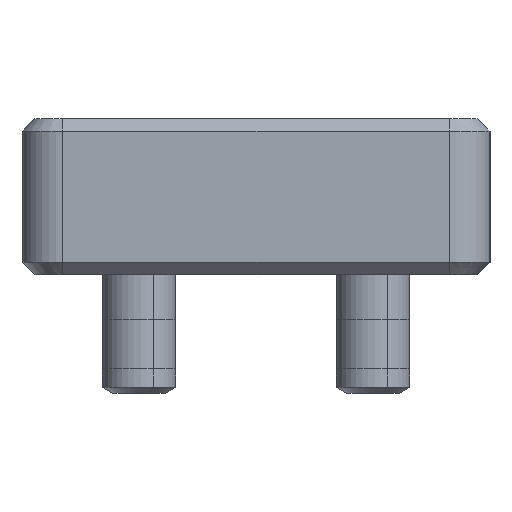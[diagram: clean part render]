
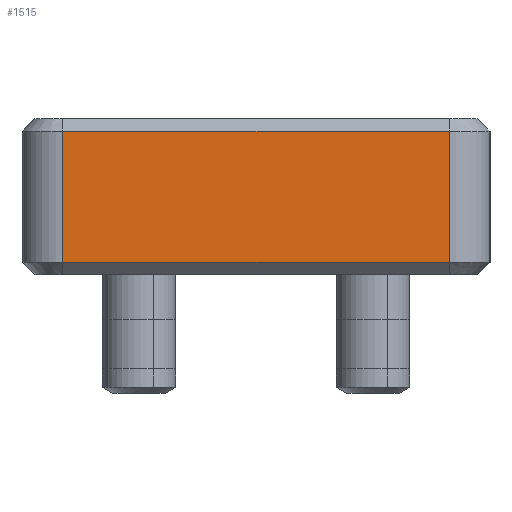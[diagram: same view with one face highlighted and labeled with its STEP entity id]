
A CAD part, left-side view. The second image highlights one B-rep face of the part: STEP entity #1515.
In plain terms, the highlighted planar face has unit normal (-1, 0, 0).
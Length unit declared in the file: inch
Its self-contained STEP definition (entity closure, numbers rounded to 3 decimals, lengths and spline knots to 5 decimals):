
#1 = ORIENTED_EDGE ( 'NONE', *, *, #1519, .T. ) ;
#75 = AXIS2_PLACEMENT_3D ( 'NONE', #1399, #2793, #4162 ) ;
#252 = DIRECTION ( 'NONE',  ( 0., 0., -1. ) ) ;
#266 = EDGE_LOOP ( 'NONE', ( #4197, #1, #292, #3745 ) ) ;
#292 = ORIENTED_EDGE ( 'NONE', *, *, #1690, .T. ) ;
#393 = PLANE ( 'NONE',  #75 ) ;
#690 = EDGE_CURVE ( 'NONE', #1340, #2700, #1283, .T. ) ;
#921 = VERTEX_POINT ( 'NONE', #3911 ) ;
#947 = DIRECTION ( 'NONE',  ( 0., -1., 0. ) ) ;
#990 = CARTESIAN_POINT ( 'NONE',  ( -2.75, 0.62, 0. ) ) ;
#1064 = DIRECTION ( 'NONE',  ( 0., 1., 0. ) ) ;
#1127 = CARTESIAN_POINT ( 'NONE',  ( -2.75, -0.75, -0.04 ) ) ;
#1178 = CARTESIAN_POINT ( 'NONE',  ( -2.75, 0.62, -0.04 ) ) ;
#1283 = LINE ( 'NONE', #4048, #4051 ) ;
#1340 = VERTEX_POINT ( 'NONE', #3385 ) ;
#1399 = CARTESIAN_POINT ( 'NONE',  ( -2.75, -0.75, 0. ) ) ;
#1442 = LINE ( 'NONE', #1127, #3252 ) ;
#1515 = ADVANCED_FACE ( 'NONE', ( #3238 ), #393, .F. ) ;
#1519 = EDGE_CURVE ( 'NONE', #921, #3883, #1442, .T. ) ;
#1690 = EDGE_CURVE ( 'NONE', #3883, #1340, #4395, .T. ) ;
#2606 = VECTOR ( 'NONE', #252, 39.37008 ) ;
#2700 = VERTEX_POINT ( 'NONE', #3088 ) ;
#2793 = DIRECTION ( 'NONE',  ( 1., 0., 0. ) ) ;
#2857 = VECTOR ( 'NONE', #3035, 39.37008 ) ;
#3035 = DIRECTION ( 'NONE',  ( 0., 0., 1. ) ) ;
#3059 = LINE ( 'NONE', #4370, #2857 ) ;
#3088 = CARTESIAN_POINT ( 'NONE',  ( -2.75, -0.62, -0.46 ) ) ;
#3133 = EDGE_CURVE ( 'NONE', #2700, #921, #3059, .T. ) ;
#3238 = FACE_OUTER_BOUND ( 'NONE', #266, .T. ) ;
#3252 = VECTOR ( 'NONE', #1064, 39.37008 ) ;
#3385 = CARTESIAN_POINT ( 'NONE',  ( -2.75, 0.62, -0.46 ) ) ;
#3745 = ORIENTED_EDGE ( 'NONE', *, *, #690, .T. ) ;
#3883 = VERTEX_POINT ( 'NONE', #1178 ) ;
#3911 = CARTESIAN_POINT ( 'NONE',  ( -2.75, -0.62, -0.04 ) ) ;
#4048 = CARTESIAN_POINT ( 'NONE',  ( -2.75, -0.62, -0.46 ) ) ;
#4051 = VECTOR ( 'NONE', #947, 39.37008 ) ;
#4162 = DIRECTION ( 'NONE',  ( 0., 0., -1. ) ) ;
#4197 = ORIENTED_EDGE ( 'NONE', *, *, #3133, .T. ) ;
#4370 = CARTESIAN_POINT ( 'NONE',  ( -2.75, -0.62, 0. ) ) ;
#4395 = LINE ( 'NONE', #990, #2606 ) ;
